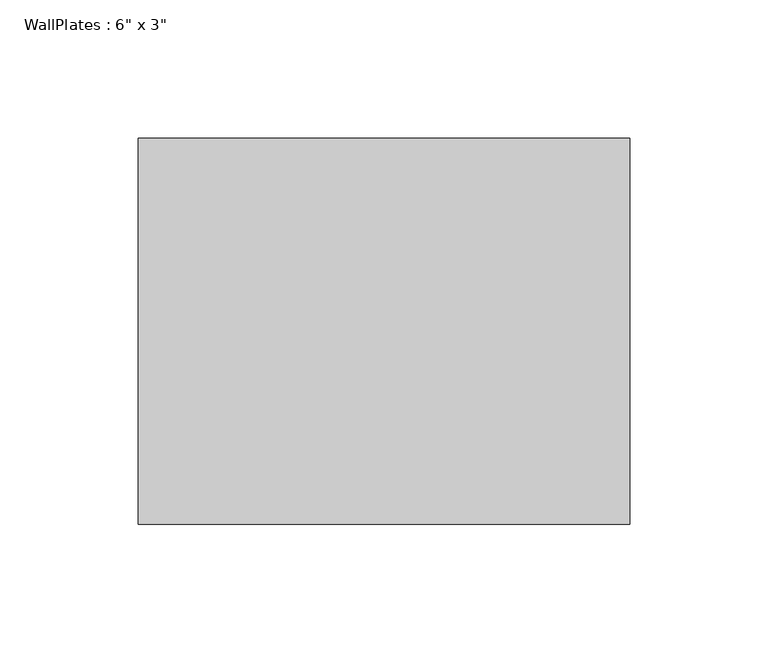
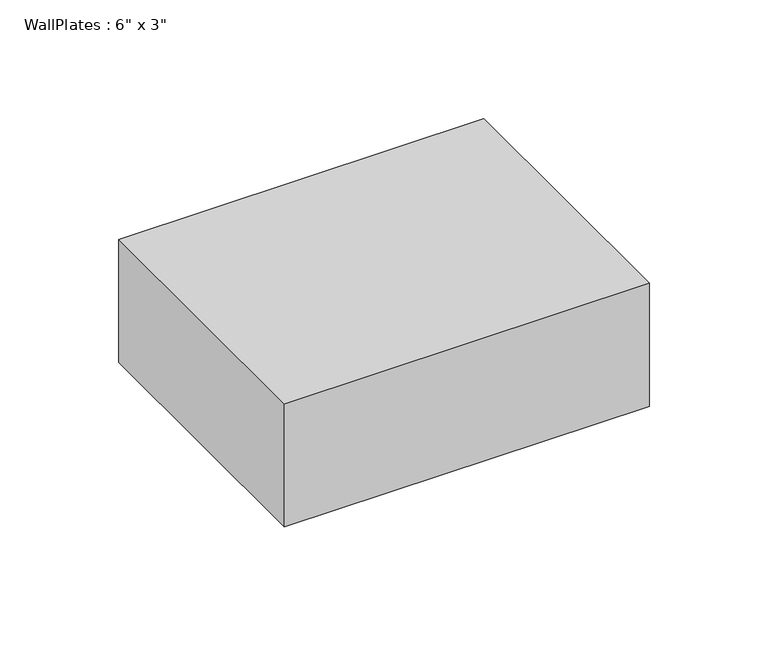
"""IFC4 building model written with IfcOpenShell, lengths in millimetres: beam geometry."""

from ifc_helpers import new_model, si_unit, frame, origin, place, context, project, spatial, polyline, outline, extrude, source, transform, mapped, element, save


def beam_51b55d0f(model_context):
    return source(origin(), model_context, "Body", "SweptSolid", [
        extrude(outline(polyline([(-88.895, -69.85), (-88.895, 69.85), (88.895, 69.85), (88.895, -69.85), (-88.895, -69.85)])), frame((0.0, 0.0, -31.75), z_axis=(0.0, 0.0, 1.0), x_axis=(1.0, 0.0, 0.0)), (0.0, 0.0, 1.0), 63.5),
    ])


if __name__ == "__main__":
    model = new_model("IFC4")
    model_context = context("Model", 3, world=origin())
    ifc_project = project(units=[si_unit("LENGTHUNIT", "METRE", prefix="MILLI")], contexts=[model_context])
    site = spatial("IfcSite", under=ifc_project)
    building = spatial("IfcBuilding", under=site)
    placement = place(None, origin())
    beam_shape = beam_51b55d0f(model_context)
    element("IfcBeam", 1, ObjectType="WallPlates : 6\" x 3\"", at=placement, inside=building, context=model_context, shape_type="MappedRepresentation", body=[
        mapped(beam_shape, transform((0.0, 0.0, 0.0), x_axis=(1.0, 0.0, 0.0), y_axis=(0.0, 1.0, 0.0), z_axis=(0.0, 0.0, 1.0))),
    ])
    save(model, "model.ifc")
